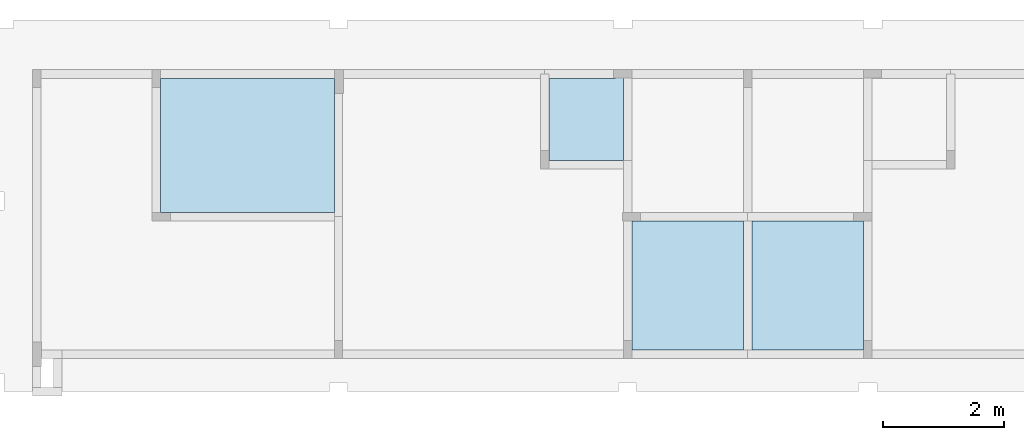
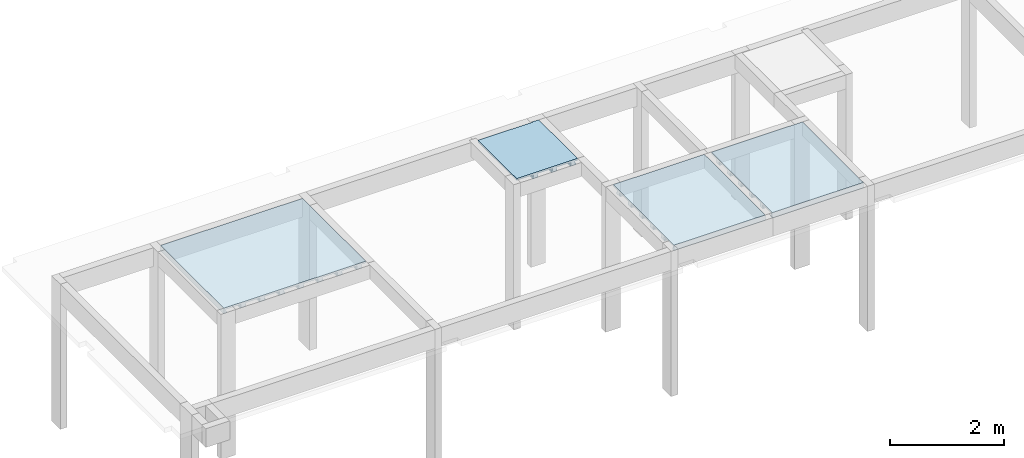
# One storey, part 3 of 4: 4 slabs.
"""IFC4 building model written with IfcOpenShell, lengths in centimetres."""

from ifc_helpers import new_model, si_unit, derived_unit, frame, origin_with_axes, place, context, project, spatial, polyline, outline, extrude, faceted_brep, material, element, save


model = new_model("IFC4")

# Units and contexts
model_context = context("Model", 3, precision=1e-05, world=origin_with_axes(), identifier="Body")
ifc_project = project(units=[si_unit("LENGTHUNIT", "METRE", prefix="CENTI"), si_unit("VOLUMEUNIT", "CUBIC_METRE"), si_unit("AREAUNIT", "SQUARE_METRE"), si_unit("POWERUNIT", "WATT"), si_unit("LUMINOUSFLUXUNIT", "LUMEN"), si_unit("ELECTRICCURRENTUNIT", "AMPERE"), si_unit("PRESSUREUNIT", "PASCAL", prefix="KILO"), si_unit("MASSUNIT", "GRAM", prefix="KILO"), si_unit("PLANEANGLEUNIT", "RADIAN"), derived_unit("VOLUMETRICFLOWRATEUNIT", [(si_unit("LENGTHUNIT", "METRE"), 3), (si_unit("TIMEUNIT", "SECOND"), -1)])], contexts=[model_context])

# Site, building, storey
site_placement = place(None, origin_with_axes())
site = spatial("IfcSite", under=ifc_project, at=site_placement)
building_placement = place(site_placement, frame((0.0, 0.0, 2.0)))
building = spatial("IfcBuilding", under=site, at=building_placement)
placement = place(building_placement, origin_with_axes())
storey_placement = place(placement, frame((0.0, 0.0, 310.0), z_axis=(0.0, 0.0, 1.0), x_axis=(1.0, 0.0, 0.0)))
storey = spatial("IfcBuildingStorey", under=building, at=storey_placement, Name="RESPALDO", CompositionType="ELEMENT", Elevation=312.0)

# Slabs
ifc_material = material(Name="Concreto")
slab_1_placement = place(storey_placement, frame((1082.3045, 182.0505, 0.0), z_axis=(0.0, 0.0, 1.0), x_axis=(1.0, 0.0, 0.0)))
element("IfcSlab", 1, at=slab_1_placement, inside=storey, material=ifc_material, Name="L10", PredefinedType="FLOOR", context=model_context, shape_type="SolidModel", body=[
    extrude(outline(polyline([(92.024, 106.53), (-92.025, 106.53), (-92.025, -106.529), (92.024, -106.529), (92.024, 106.53), (92.024, 106.53)])), frame((0.0005, -0.0005, -4.0), z_axis=(0.0, 0.0, 1.0), x_axis=(1.0, 0.0, 0.0)), (0.0, 0.0, 1.0), 4.0),
    faceted_brep([(-92.0245, -102.0305, -12.0), (92.0245, -102.0305, -12.0), (92.0245, -106.5295, -12.0), (-92.0245, -106.5295, -12.0), (-92.0245, -106.5295, -4.0), (92.0245, -106.5295, -4.0), (92.0245, -102.0305, -4.0), (-92.0245, -102.0305, -4.0)], [[[0, 1, 2, 3]], [[4, 5, 6, 7]], [[4, 3, 5]], [[3, 2, 5]], [[5, 2, 6]], [[2, 1, 6]], [[6, 1, 7]], [[1, 0, 7]], [[7, 0, 4]], [[0, 3, 4]]]),
    faceted_brep([(-92.0245, -100.5305, -12.0), (92.0245, -100.5305, -12.0), (92.0245, -102.0305, -12.0), (-92.0245, -102.0305, -12.0), (-92.0245, -102.0305, -9.0), (92.0245, -102.0305, -9.0), (92.0245, -100.5305, -9.0), (-92.0245, -100.5305, -9.0)], [[[0, 1, 2, 3]], [[4, 5, 6, 7]], [[4, 3, 5]], [[3, 2, 5]], [[5, 2, 6]], [[2, 1, 6]], [[6, 1, 7]], [[1, 0, 7]], [[7, 0, 4]], [[0, 3, 4]]]),
    faceted_brep([(-92.0245, -63.0305, -12.0), (92.0245, -63.0305, -12.0), (92.0245, -72.0305, -12.0), (-92.0245, -72.0305, -12.0), (-92.0245, -72.0305, -4.0), (92.0245, -72.0305, -4.0), (92.0245, -63.0305, -4.0), (-92.0245, -63.0305, -4.0)], [[[0, 1, 2, 3]], [[4, 5, 6, 7]], [[4, 3, 5]], [[3, 2, 5]], [[5, 2, 6]], [[2, 1, 6]], [[6, 1, 7]], [[1, 0, 7]], [[7, 0, 4]], [[0, 3, 4]]]),
    faceted_brep([(-92.0245, -61.5305, -12.0), (92.0245, -61.5305, -12.0), (92.0245, -63.0305, -12.0), (-92.0245, -63.0305, -12.0), (-92.0245, -63.0305, -9.0), (92.0245, -63.0305, -9.0), (92.0245, -61.5305, -9.0), (-92.0245, -61.5305, -9.0)], [[[0, 1, 2, 3]], [[4, 5, 6, 7]], [[4, 3, 5]], [[3, 2, 5]], [[5, 2, 6]], [[2, 1, 6]], [[6, 1, 7]], [[1, 0, 7]], [[7, 0, 4]], [[0, 3, 4]]]),
    faceted_brep([(-92.0245, -72.0305, -12.0), (92.0245, -72.0305, -12.0), (92.0245, -73.5305, -12.0), (-92.0245, -73.5305, -12.0), (-92.0245, -73.5305, -9.0), (92.0245, -73.5305, -9.0), (92.0245, -72.0305, -9.0), (-92.0245, -72.0305, -9.0)], [[[0, 1, 2, 3]], [[4, 5, 6, 7]], [[4, 3, 5]], [[3, 2, 5]], [[5, 2, 6]], [[2, 1, 6]], [[6, 1, 7]], [[1, 0, 7]], [[7, 0, 4]], [[0, 3, 4]]]),
    faceted_brep([(-92.0245, -24.0305, -12.0), (92.0245, -24.0305, -12.0), (92.0245, -33.0305, -12.0), (-92.0245, -33.0305, -12.0), (-92.0245, -33.0305, -4.0), (92.0245, -33.0305, -4.0), (92.0245, -24.0305, -4.0), (-92.0245, -24.0305, -4.0)], [[[0, 1, 2, 3]], [[4, 5, 6, 7]], [[4, 3, 5]], [[3, 2, 5]], [[5, 2, 6]], [[2, 1, 6]], [[6, 1, 7]], [[1, 0, 7]], [[7, 0, 4]], [[0, 3, 4]]]),
    faceted_brep([(-92.0245, -22.5305, -12.0), (92.0245, -22.5305, -12.0), (92.0245, -24.0305, -12.0), (-92.0245, -24.0305, -12.0), (-92.0245, -24.0305, -9.0), (92.0245, -24.0305, -9.0), (92.0245, -22.5305, -9.0), (-92.0245, -22.5305, -9.0)], [[[0, 1, 2, 3]], [[4, 5, 6, 7]], [[4, 3, 5]], [[3, 2, 5]], [[5, 2, 6]], [[2, 1, 6]], [[6, 1, 7]], [[1, 0, 7]], [[7, 0, 4]], [[0, 3, 4]]]),
    faceted_brep([(-92.0245, -33.0305, -12.0), (92.0245, -33.0305, -12.0), (92.0245, -34.5305, -12.0), (-92.0245, -34.5305, -12.0), (-92.0245, -34.5305, -9.0), (92.0245, -34.5305, -9.0), (92.0245, -33.0305, -9.0), (-92.0245, -33.0305, -9.0)], [[[0, 1, 2, 3]], [[4, 5, 6, 7]], [[4, 3, 5]], [[3, 2, 5]], [[5, 2, 6]], [[2, 1, 6]], [[6, 1, 7]], [[1, 0, 7]], [[7, 0, 4]], [[0, 3, 4]]]),
    faceted_brep([(-92.0245, 14.9695, -12.0), (92.0245, 14.9695, -12.0), (92.0245, 5.9695, -12.0), (-92.0245, 5.9695, -12.0), (-92.0245, 5.9695, -4.0), (92.0245, 5.9695, -4.0), (92.0245, 14.9695, -4.0), (-92.0245, 14.9695, -4.0)], [[[0, 1, 2, 3]], [[4, 5, 6, 7]], [[4, 3, 5]], [[3, 2, 5]], [[5, 2, 6]], [[2, 1, 6]], [[6, 1, 7]], [[1, 0, 7]], [[7, 0, 4]], [[0, 3, 4]]]),
    faceted_brep([(-92.0245, 16.4695, -12.0), (92.0245, 16.4695, -12.0), (92.0245, 14.9695, -12.0), (-92.0245, 14.9695, -12.0), (-92.0245, 14.9695, -9.0), (92.0245, 14.9695, -9.0), (92.0245, 16.4695, -9.0), (-92.0245, 16.4695, -9.0)], [[[0, 1, 2, 3]], [[4, 5, 6, 7]], [[4, 3, 5]], [[3, 2, 5]], [[5, 2, 6]], [[2, 1, 6]], [[6, 1, 7]], [[1, 0, 7]], [[7, 0, 4]], [[0, 3, 4]]]),
    faceted_brep([(-92.0245, 5.9695, -12.0), (92.0245, 5.9695, -12.0), (92.0245, 4.4695, -12.0), (-92.0245, 4.4695, -12.0), (-92.0245, 4.4695, -9.0), (92.0245, 4.4695, -9.0), (92.0245, 5.9695, -9.0), (-92.0245, 5.9695, -9.0)], [[[0, 1, 2, 3]], [[4, 5, 6, 7]], [[4, 3, 5]], [[3, 2, 5]], [[5, 2, 6]], [[2, 1, 6]], [[6, 1, 7]], [[1, 0, 7]], [[7, 0, 4]], [[0, 3, 4]]]),
    faceted_brep([(-92.0245, 53.9695, -12.0), (92.0245, 53.9695, -12.0), (92.0245, 44.9695, -12.0), (-92.0245, 44.9695, -12.0), (-92.0245, 44.9695, -4.0), (92.0245, 44.9695, -4.0), (92.0245, 53.9695, -4.0), (-92.0245, 53.9695, -4.0)], [[[0, 1, 2, 3]], [[4, 5, 6, 7]], [[4, 3, 5]], [[3, 2, 5]], [[5, 2, 6]], [[2, 1, 6]], [[6, 1, 7]], [[1, 0, 7]], [[7, 0, 4]], [[0, 3, 4]]]),
    faceted_brep([(-92.0245, 55.4695, -12.0), (92.0245, 55.4695, -12.0), (92.0245, 53.9695, -12.0), (-92.0245, 53.9695, -12.0), (-92.0245, 53.9695, -9.0), (92.0245, 53.9695, -9.0), (92.0245, 55.4695, -9.0), (-92.0245, 55.4695, -9.0)], [[[0, 1, 2, 3]], [[4, 5, 6, 7]], [[4, 3, 5]], [[3, 2, 5]], [[5, 2, 6]], [[2, 1, 6]], [[6, 1, 7]], [[1, 0, 7]], [[7, 0, 4]], [[0, 3, 4]]]),
    faceted_brep([(-92.0245, 44.9695, -12.0), (92.0245, 44.9695, -12.0), (92.0245, 43.4695, -12.0), (-92.0245, 43.4695, -12.0), (-92.0245, 43.4695, -9.0), (92.0245, 43.4695, -9.0), (92.0245, 44.9695, -9.0), (-92.0245, 44.9695, -9.0)], [[[0, 1, 2, 3]], [[4, 5, 6, 7]], [[4, 3, 5]], [[3, 2, 5]], [[5, 2, 6]], [[2, 1, 6]], [[6, 1, 7]], [[1, 0, 7]], [[7, 0, 4]], [[0, 3, 4]]]),
    faceted_brep([(-92.0245, 92.9695, -12.0), (92.0245, 92.9695, -12.0), (92.0245, 83.9695, -12.0), (-92.0245, 83.9695, -12.0), (-92.0245, 83.9695, -4.0), (92.0245, 83.9695, -4.0), (92.0245, 92.9695, -4.0), (-92.0245, 92.9695, -4.0)], [[[0, 1, 2, 3]], [[4, 5, 6, 7]], [[4, 3, 5]], [[3, 2, 5]], [[5, 2, 6]], [[2, 1, 6]], [[6, 1, 7]], [[1, 0, 7]], [[7, 0, 4]], [[0, 3, 4]]]),
    faceted_brep([(-92.0245, 94.4695, -12.0), (92.0245, 94.4695, -12.0), (92.0245, 92.9695, -12.0), (-92.0245, 92.9695, -12.0), (-92.0245, 92.9695, -9.0), (92.0245, 92.9695, -9.0), (92.0245, 94.4695, -9.0), (-92.0245, 94.4695, -9.0)], [[[0, 1, 2, 3]], [[4, 5, 6, 7]], [[4, 3, 5]], [[3, 2, 5]], [[5, 2, 6]], [[2, 1, 6]], [[6, 1, 7]], [[1, 0, 7]], [[7, 0, 4]], [[0, 3, 4]]]),
    faceted_brep([(-92.0245, 83.9695, -12.0), (92.0245, 83.9695, -12.0), (92.0245, 82.4695, -12.0), (-92.0245, 82.4695, -12.0), (-92.0245, 82.4695, -9.0), (92.0245, 82.4695, -9.0), (92.0245, 83.9695, -9.0), (-92.0245, 83.9695, -9.0)], [[[0, 1, 2, 3]], [[4, 5, 6, 7]], [[4, 3, 5]], [[3, 2, 5]], [[5, 2, 6]], [[2, 1, 6]], [[6, 1, 7]], [[1, 0, 7]], [[7, 0, 4]], [[0, 3, 4]]]),
])
slab_2_placement = place(storey_placement, frame((1280.355, 182.05, 0.0), z_axis=(0.0, 0.0, 1.0), x_axis=(1.0, 0.0, 0.0)))
element("IfcSlab", 2, at=slab_2_placement, inside=storey, material=ifc_material, Name="L11", PredefinedType="FLOOR", context=model_context, shape_type="SolidModel", body=[
    extrude(outline(polyline([(92.025, -106.53), (92.024, 106.529), (-92.025, 106.53), (-92.025, -106.53), (92.025, -106.53), (92.025, -106.53)])), frame((0.0, 0.0, -4.0), z_axis=(0.0, 0.0, 1.0), x_axis=(1.0, 0.0, 0.0)), (0.0, 0.0, 1.0), 4.0),
    faceted_brep([(-92.025, -102.53, -12.0), (92.0245, -102.53, -12.0), (92.025, -106.53, -12.0), (-92.025, -106.53, -12.0), (-92.025, -106.53, -4.0), (92.025, -106.53, -4.0), (92.0245, -102.53, -4.0), (-92.025, -102.53, -4.0)], [[[0, 1, 2, 3]], [[4, 5, 6, 7]], [[4, 3, 5]], [[3, 2, 5]], [[5, 2, 6]], [[2, 1, 6]], [[6, 1, 7]], [[1, 0, 7]], [[7, 0, 4]], [[0, 3, 4]]]),
    faceted_brep([(-92.025, -101.03, -12.0), (92.0245, -101.03, -12.0), (92.0245, -102.53, -12.0), (-92.025, -102.53, -12.0), (-92.025, -102.53, -9.0), (92.0245, -102.53, -9.0), (92.0245, -101.03, -9.0), (-92.025, -101.03, -9.0)], [[[0, 1, 2, 3]], [[4, 5, 6, 7]], [[4, 3, 5]], [[3, 2, 5]], [[5, 2, 6]], [[2, 1, 6]], [[6, 1, 7]], [[1, 0, 7]], [[7, 0, 4]], [[0, 3, 4]]]),
    faceted_brep([(-92.025, -64.53, -12.0), (92.0245, -64.53, -12.0), (92.0245, -72.53, -12.0), (-92.025, -72.53, -12.0), (-92.025, -72.53, -4.0), (92.0245, -72.53, -4.0), (92.0245, -64.53, -4.0), (-92.025, -64.53, -4.0)], [[[0, 1, 2, 3]], [[4, 5, 6, 7]], [[4, 3, 5]], [[3, 2, 5]], [[5, 2, 6]], [[2, 1, 6]], [[6, 1, 7]], [[1, 0, 7]], [[7, 0, 4]], [[0, 3, 4]]]),
    faceted_brep([(-92.025, -63.03, -12.0), (92.0245, -63.03, -12.0), (92.0245, -64.53, -12.0), (-92.025, -64.53, -12.0), (-92.025, -64.53, -9.0), (92.0245, -64.53, -9.0), (92.0245, -63.03, -9.0), (-92.025, -63.03, -9.0)], [[[0, 1, 2, 3]], [[4, 5, 6, 7]], [[4, 3, 5]], [[3, 2, 5]], [[5, 2, 6]], [[2, 1, 6]], [[6, 1, 7]], [[1, 0, 7]], [[7, 0, 4]], [[0, 3, 4]]]),
    faceted_brep([(-92.025, -72.53, -12.0), (92.0245, -72.53, -12.0), (92.0245, -74.03, -12.0), (-92.025, -74.03, -12.0), (-92.025, -74.03, -9.0), (92.0245, -74.03, -9.0), (92.0245, -72.53, -9.0), (-92.025, -72.53, -9.0)], [[[0, 1, 2, 3]], [[4, 5, 6, 7]], [[4, 3, 5]], [[3, 2, 5]], [[5, 2, 6]], [[2, 1, 6]], [[6, 1, 7]], [[1, 0, 7]], [[7, 0, 4]], [[0, 3, 4]]]),
    faceted_brep([(-92.025, -26.53, -12.0), (92.0245, -26.53, -12.0), (92.0245, -34.53, -12.0), (-92.025, -34.53, -12.0), (-92.025, -34.53, -4.0), (92.0245, -34.53, -4.0), (92.0245, -26.53, -4.0), (-92.025, -26.53, -4.0)], [[[0, 1, 2, 3]], [[4, 5, 6, 7]], [[4, 3, 5]], [[3, 2, 5]], [[5, 2, 6]], [[2, 1, 6]], [[6, 1, 7]], [[1, 0, 7]], [[7, 0, 4]], [[0, 3, 4]]]),
    faceted_brep([(-92.025, -25.03, -12.0), (92.0245, -25.03, -12.0), (92.0245, -26.53, -12.0), (-92.025, -26.53, -12.0), (-92.025, -26.53, -9.0), (92.0245, -26.53, -9.0), (92.0245, -25.03, -9.0), (-92.025, -25.03, -9.0)], [[[0, 1, 2, 3]], [[4, 5, 6, 7]], [[4, 3, 5]], [[3, 2, 5]], [[5, 2, 6]], [[2, 1, 6]], [[6, 1, 7]], [[1, 0, 7]], [[7, 0, 4]], [[0, 3, 4]]]),
    faceted_brep([(-92.025, -34.53, -12.0), (92.0245, -34.53, -12.0), (92.0245, -36.03, -12.0), (-92.025, -36.03, -12.0), (-92.025, -36.03, -9.0), (92.0245, -36.03, -9.0), (92.0245, -34.53, -9.0), (-92.025, -34.53, -9.0)], [[[0, 1, 2, 3]], [[4, 5, 6, 7]], [[4, 3, 5]], [[3, 2, 5]], [[5, 2, 6]], [[2, 1, 6]], [[6, 1, 7]], [[1, 0, 7]], [[7, 0, 4]], [[0, 3, 4]]]),
    faceted_brep([(-92.025, 11.47, -12.0), (92.0245, 11.47, -12.0), (92.0245, 3.47, -12.0), (-92.025, 3.47, -12.0), (-92.025, 3.47, -4.0), (92.0245, 3.47, -4.0), (92.0245, 11.47, -4.0), (-92.025, 11.47, -4.0)], [[[0, 1, 2, 3]], [[4, 5, 6, 7]], [[4, 3, 5]], [[3, 2, 5]], [[5, 2, 6]], [[2, 1, 6]], [[6, 1, 7]], [[1, 0, 7]], [[7, 0, 4]], [[0, 3, 4]]]),
    faceted_brep([(-92.025, 12.97, -12.0), (92.0245, 12.97, -12.0), (92.0245, 11.47, -12.0), (-92.025, 11.47, -12.0), (-92.025, 11.47, -9.0), (92.0245, 11.47, -9.0), (92.0245, 12.97, -9.0), (-92.025, 12.97, -9.0)], [[[0, 1, 2, 3]], [[4, 5, 6, 7]], [[4, 3, 5]], [[3, 2, 5]], [[5, 2, 6]], [[2, 1, 6]], [[6, 1, 7]], [[1, 0, 7]], [[7, 0, 4]], [[0, 3, 4]]]),
    faceted_brep([(-92.025, 3.47, -12.0), (92.0245, 3.47, -12.0), (92.0245, 1.97, -12.0), (-92.025, 1.97, -12.0), (-92.025, 1.97, -9.0), (92.0245, 1.97, -9.0), (92.0245, 3.47, -9.0), (-92.025, 3.47, -9.0)], [[[0, 1, 2, 3]], [[4, 5, 6, 7]], [[4, 3, 5]], [[3, 2, 5]], [[5, 2, 6]], [[2, 1, 6]], [[6, 1, 7]], [[1, 0, 7]], [[7, 0, 4]], [[0, 3, 4]]]),
    faceted_brep([(-92.025, 49.47, -12.0), (92.0245, 49.47, -12.0), (92.0245, 41.47, -12.0), (-92.025, 41.47, -12.0), (-92.025, 41.47, -4.0), (92.0245, 41.47, -4.0), (92.0245, 49.47, -4.0), (-92.025, 49.47, -4.0)], [[[0, 1, 2, 3]], [[4, 5, 6, 7]], [[4, 3, 5]], [[3, 2, 5]], [[5, 2, 6]], [[2, 1, 6]], [[6, 1, 7]], [[1, 0, 7]], [[7, 0, 4]], [[0, 3, 4]]]),
    faceted_brep([(-92.025, 50.97, -12.0), (92.0245, 50.97, -12.0), (92.0245, 49.47, -12.0), (-92.025, 49.47, -12.0), (-92.025, 49.47, -9.0), (92.0245, 49.47, -9.0), (92.0245, 50.97, -9.0), (-92.025, 50.97, -9.0)], [[[0, 1, 2, 3]], [[4, 5, 6, 7]], [[4, 3, 5]], [[3, 2, 5]], [[5, 2, 6]], [[2, 1, 6]], [[6, 1, 7]], [[1, 0, 7]], [[7, 0, 4]], [[0, 3, 4]]]),
    faceted_brep([(-92.025, 41.47, -12.0), (92.0245, 41.47, -12.0), (92.0245, 39.97, -12.0), (-92.025, 39.97, -12.0), (-92.025, 39.97, -9.0), (92.0245, 39.97, -9.0), (92.0245, 41.47, -9.0), (-92.025, 41.47, -9.0)], [[[0, 1, 2, 3]], [[4, 5, 6, 7]], [[4, 3, 5]], [[3, 2, 5]], [[5, 2, 6]], [[2, 1, 6]], [[6, 1, 7]], [[1, 0, 7]], [[7, 0, 4]], [[0, 3, 4]]]),
    faceted_brep([(-92.025, 87.47, -12.0), (92.0245, 87.47, -12.0), (92.0245, 79.47, -12.0), (-92.025, 79.47, -12.0), (-92.025, 79.47, -4.0), (92.0245, 79.47, -4.0), (92.0245, 87.47, -4.0), (-92.025, 87.47, -4.0)], [[[0, 1, 2, 3]], [[4, 5, 6, 7]], [[4, 3, 5]], [[3, 2, 5]], [[5, 2, 6]], [[2, 1, 6]], [[6, 1, 7]], [[1, 0, 7]], [[7, 0, 4]], [[0, 3, 4]]]),
    faceted_brep([(-92.025, 88.97, -12.0), (92.0245, 88.97, -12.0), (92.0245, 87.47, -12.0), (-92.025, 87.47, -12.0), (-92.025, 87.47, -9.0), (92.0245, 87.47, -9.0), (92.0245, 88.97, -9.0), (-92.025, 88.97, -9.0)], [[[0, 1, 2, 3]], [[4, 5, 6, 7]], [[4, 3, 5]], [[3, 2, 5]], [[5, 2, 6]], [[2, 1, 6]], [[6, 1, 7]], [[1, 0, 7]], [[7, 0, 4]], [[0, 3, 4]]]),
    faceted_brep([(-92.025, 79.47, -12.0), (92.0245, 79.47, -12.0), (92.0245, 77.97, -12.0), (-92.025, 77.97, -12.0), (-92.025, 77.97, -9.0), (92.0245, 77.97, -9.0), (92.0245, 79.47, -9.0), (-92.025, 79.47, -9.0)], [[[0, 1, 2, 3]], [[4, 5, 6, 7]], [[4, 3, 5]], [[3, 2, 5]], [[5, 2, 6]], [[2, 1, 6]], [[6, 1, 7]], [[1, 0, 7]], [[7, 0, 4]], [[0, 3, 4]]]),
])
slab_3_placement = place(storey_placement, frame((355.85, 413.1, 0.0), z_axis=(0.0, 0.0, 1.0), x_axis=(1.0, 0.0, 0.0)))
element("IfcSlab", 3, at=slab_3_placement, inside=storey, material=ifc_material, Name="L3", PredefinedType="FLOOR", context=model_context, shape_type="SolidModel", body=[
    extrude(outline(polyline([(143.3, -110.53), (143.3, 110.53), (-143.3, 110.529), (-143.3, -110.53), (143.3, -110.53), (143.3, -110.53)])), frame((0.0, 0.0, -4.0), z_axis=(0.0, 0.0, 1.0), x_axis=(1.0, 0.0, 0.0)), (0.0, 0.0, 1.0), 4.0),
    faceted_brep([(-108.8, -110.53, -12.0), (-108.8, 110.5295, -12.0), (-99.8, 110.5295, -12.0), (-99.8, -110.53, -12.0), (-99.8, -110.53, -4.0), (-99.8, 110.5295, -4.0), (-108.8, 110.5295, -4.0), (-108.8, -110.53, -4.0)], [[[0, 1, 2, 3]], [[4, 5, 6, 7]], [[4, 3, 5]], [[3, 2, 5]], [[5, 2, 6]], [[2, 1, 6]], [[6, 1, 7]], [[1, 0, 7]], [[7, 0, 4]], [[0, 3, 4]]]),
    faceted_brep([(-110.3, -110.53, -12.0), (-110.3, 110.5295, -12.0), (-108.8, 110.5295, -12.0), (-108.8, -110.53, -12.0), (-108.8, -110.53, -9.0), (-108.8, 110.5295, -9.0), (-110.3, 110.5295, -9.0), (-110.3, -110.53, -9.0)], [[[0, 1, 2, 3]], [[4, 5, 6, 7]], [[4, 3, 5]], [[3, 2, 5]], [[5, 2, 6]], [[2, 1, 6]], [[6, 1, 7]], [[1, 0, 7]], [[7, 0, 4]], [[0, 3, 4]]]),
    faceted_brep([(-99.8, -110.53, -12.0), (-99.8, 110.5295, -12.0), (-98.3, 110.5295, -12.0), (-98.3, -110.53, -12.0), (-98.3, -110.53, -9.0), (-98.3, 110.5295, -9.0), (-99.8, 110.5295, -9.0), (-99.8, -110.53, -9.0)], [[[0, 1, 2, 3]], [[4, 5, 6, 7]], [[4, 3, 5]], [[3, 2, 5]], [[5, 2, 6]], [[2, 1, 6]], [[6, 1, 7]], [[1, 0, 7]], [[7, 0, 4]], [[0, 3, 4]]]),
    faceted_brep([(-143.3, -110.53, -12.0), (-143.3, 110.5295, -12.0), (-138.8, 110.5295, -12.0), (-138.8, -110.53, -12.0), (-138.8, -110.53, -4.0), (-138.8, 110.5295, -4.0), (-143.3, 110.5295, -4.0), (-143.3, -110.53, -4.0)], [[[0, 1, 2, 3]], [[4, 5, 6, 7]], [[4, 3, 5]], [[3, 2, 5]], [[5, 2, 6]], [[2, 1, 6]], [[6, 1, 7]], [[1, 0, 7]], [[7, 0, 4]], [[0, 3, 4]]]),
    faceted_brep([(-138.8, -110.53, -12.0), (-138.8, 110.5295, -12.0), (-137.3, 110.5295, -12.0), (-137.3, -110.53, -12.0), (-137.3, -110.53, -9.0), (-137.3, 110.5295, -9.0), (-138.8, 110.5295, -9.0), (-138.8, -110.53, -9.0)], [[[0, 1, 2, 3]], [[4, 5, 6, 7]], [[4, 3, 5]], [[3, 2, 5]], [[5, 2, 6]], [[2, 1, 6]], [[6, 1, 7]], [[1, 0, 7]], [[7, 0, 4]], [[0, 3, 4]]]),
    faceted_brep([(-69.8, -110.53, -12.0), (-69.8, 110.5295, -12.0), (-60.8, 110.5295, -12.0), (-60.8, -110.53, -12.0), (-60.8, -110.53, -4.0), (-60.8, 110.5295, -4.0), (-69.8, 110.5295, -4.0), (-69.8, -110.53, -4.0)], [[[0, 1, 2, 3]], [[4, 5, 6, 7]], [[4, 3, 5]], [[3, 2, 5]], [[5, 2, 6]], [[2, 1, 6]], [[6, 1, 7]], [[1, 0, 7]], [[7, 0, 4]], [[0, 3, 4]]]),
    faceted_brep([(-71.3, -110.53, -12.0), (-71.3, 110.5295, -12.0), (-69.8, 110.5295, -12.0), (-69.8, -110.53, -12.0), (-69.8, -110.53, -9.0), (-69.8, 110.5295, -9.0), (-71.3, 110.5295, -9.0), (-71.3, -110.53, -9.0)], [[[0, 1, 2, 3]], [[4, 5, 6, 7]], [[4, 3, 5]], [[3, 2, 5]], [[5, 2, 6]], [[2, 1, 6]], [[6, 1, 7]], [[1, 0, 7]], [[7, 0, 4]], [[0, 3, 4]]]),
    faceted_brep([(-60.8, -110.53, -12.0), (-60.8, 110.5295, -12.0), (-59.3, 110.5295, -12.0), (-59.3, -110.53, -12.0), (-59.3, -110.53, -9.0), (-59.3, 110.5295, -9.0), (-60.8, 110.5295, -9.0), (-60.8, -110.53, -9.0)], [[[0, 1, 2, 3]], [[4, 5, 6, 7]], [[4, 3, 5]], [[3, 2, 5]], [[5, 2, 6]], [[2, 1, 6]], [[6, 1, 7]], [[1, 0, 7]], [[7, 0, 4]], [[0, 3, 4]]]),
    faceted_brep([(-30.8, -110.53, -12.0), (-30.8, 110.5295, -12.0), (-21.8, 110.5295, -12.0), (-21.8, -110.53, -12.0), (-21.8, -110.53, -4.0), (-21.8, 110.5295, -4.0), (-30.8, 110.5295, -4.0), (-30.8, -110.53, -4.0)], [[[0, 1, 2, 3]], [[4, 5, 6, 7]], [[4, 3, 5]], [[3, 2, 5]], [[5, 2, 6]], [[2, 1, 6]], [[6, 1, 7]], [[1, 0, 7]], [[7, 0, 4]], [[0, 3, 4]]]),
    faceted_brep([(-32.3, -110.53, -12.0), (-32.3, 110.5295, -12.0), (-30.8, 110.5295, -12.0), (-30.8, -110.53, -12.0), (-30.8, -110.53, -9.0), (-30.8, 110.5295, -9.0), (-32.3, 110.5295, -9.0), (-32.3, -110.53, -9.0)], [[[0, 1, 2, 3]], [[4, 5, 6, 7]], [[4, 3, 5]], [[3, 2, 5]], [[5, 2, 6]], [[2, 1, 6]], [[6, 1, 7]], [[1, 0, 7]], [[7, 0, 4]], [[0, 3, 4]]]),
    faceted_brep([(-21.8, -110.53, -12.0), (-21.8, 110.5295, -12.0), (-20.3, 110.5295, -12.0), (-20.3, -110.53, -12.0), (-20.3, -110.53, -9.0), (-20.3, 110.5295, -9.0), (-21.8, 110.5295, -9.0), (-21.8, -110.53, -9.0)], [[[0, 1, 2, 3]], [[4, 5, 6, 7]], [[4, 3, 5]], [[3, 2, 5]], [[5, 2, 6]], [[2, 1, 6]], [[6, 1, 7]], [[1, 0, 7]], [[7, 0, 4]], [[0, 3, 4]]]),
    faceted_brep([(8.2, -110.53, -12.0), (8.2, 110.5295, -12.0), (17.2, 110.5295, -12.0), (17.2, -110.53, -12.0), (17.2, -110.53, -4.0), (17.2, 110.5295, -4.0), (8.2, 110.5295, -4.0), (8.2, -110.53, -4.0)], [[[0, 1, 2, 3]], [[4, 5, 6, 7]], [[4, 3, 5]], [[3, 2, 5]], [[5, 2, 6]], [[2, 1, 6]], [[6, 1, 7]], [[1, 0, 7]], [[7, 0, 4]], [[0, 3, 4]]]),
    faceted_brep([(6.7, -110.53, -12.0), (6.7, 110.5295, -12.0), (8.2, 110.5295, -12.0), (8.2, -110.53, -12.0), (8.2, -110.53, -9.0), (8.2, 110.5295, -9.0), (6.7, 110.5295, -9.0), (6.7, -110.53, -9.0)], [[[0, 1, 2, 3]], [[4, 5, 6, 7]], [[4, 3, 5]], [[3, 2, 5]], [[5, 2, 6]], [[2, 1, 6]], [[6, 1, 7]], [[1, 0, 7]], [[7, 0, 4]], [[0, 3, 4]]]),
    faceted_brep([(17.2, -110.53, -12.0), (17.2, 110.5295, -12.0), (18.7, 110.5295, -12.0), (18.7, -110.53, -12.0), (18.7, -110.53, -9.0), (18.7, 110.5295, -9.0), (17.2, 110.5295, -9.0), (17.2, -110.53, -9.0)], [[[0, 1, 2, 3]], [[4, 5, 6, 7]], [[4, 3, 5]], [[3, 2, 5]], [[5, 2, 6]], [[2, 1, 6]], [[6, 1, 7]], [[1, 0, 7]], [[7, 0, 4]], [[0, 3, 4]]]),
    faceted_brep([(47.2, -110.53, -12.0), (47.2, 110.5295, -12.0), (56.2, 110.5295, -12.0), (56.2, -110.53, -12.0), (56.2, -110.53, -4.0), (56.2, 110.5295, -4.0), (47.2, 110.5295, -4.0), (47.2, -110.53, -4.0)], [[[0, 1, 2, 3]], [[4, 5, 6, 7]], [[4, 3, 5]], [[3, 2, 5]], [[5, 2, 6]], [[2, 1, 6]], [[6, 1, 7]], [[1, 0, 7]], [[7, 0, 4]], [[0, 3, 4]]]),
    faceted_brep([(45.7, -110.53, -12.0), (45.7, 110.5295, -12.0), (47.2, 110.5295, -12.0), (47.2, -110.53, -12.0), (47.2, -110.53, -9.0), (47.2, 110.5295, -9.0), (45.7, 110.5295, -9.0), (45.7, -110.53, -9.0)], [[[0, 1, 2, 3]], [[4, 5, 6, 7]], [[4, 3, 5]], [[3, 2, 5]], [[5, 2, 6]], [[2, 1, 6]], [[6, 1, 7]], [[1, 0, 7]], [[7, 0, 4]], [[0, 3, 4]]]),
    faceted_brep([(56.2, -110.53, -12.0), (56.2, 110.5295, -12.0), (57.7, 110.5295, -12.0), (57.7, -110.53, -12.0), (57.7, -110.53, -9.0), (57.7, 110.5295, -9.0), (56.2, 110.5295, -9.0), (56.2, -110.53, -9.0)], [[[0, 1, 2, 3]], [[4, 5, 6, 7]], [[4, 3, 5]], [[3, 2, 5]], [[5, 2, 6]], [[2, 1, 6]], [[6, 1, 7]], [[1, 0, 7]], [[7, 0, 4]], [[0, 3, 4]]]),
    faceted_brep([(86.2, -110.53, -12.0), (86.2, 110.5295, -12.0), (95.2, 110.5295, -12.0), (95.2, -110.53, -12.0), (95.2, -110.53, -4.0), (95.2, 110.5295, -4.0), (86.2, 110.5295, -4.0), (86.2, -110.53, -4.0)], [[[0, 1, 2, 3]], [[4, 5, 6, 7]], [[4, 3, 5]], [[3, 2, 5]], [[5, 2, 6]], [[2, 1, 6]], [[6, 1, 7]], [[1, 0, 7]], [[7, 0, 4]], [[0, 3, 4]]]),
    faceted_brep([(84.7, -110.53, -12.0), (84.7, 110.5295, -12.0), (86.2, 110.5295, -12.0), (86.2, -110.53, -12.0), (86.2, -110.53, -9.0), (86.2, 110.5295, -9.0), (84.7, 110.5295, -9.0), (84.7, -110.53, -9.0)], [[[0, 1, 2, 3]], [[4, 5, 6, 7]], [[4, 3, 5]], [[3, 2, 5]], [[5, 2, 6]], [[2, 1, 6]], [[6, 1, 7]], [[1, 0, 7]], [[7, 0, 4]], [[0, 3, 4]]]),
    faceted_brep([(95.2, -110.53, -12.0), (95.2, 110.5295, -12.0), (96.7, 110.5295, -12.0), (96.7, -110.53, -12.0), (96.7, -110.53, -9.0), (96.7, 110.5295, -9.0), (95.2, 110.5295, -9.0), (95.2, -110.53, -9.0)], [[[0, 1, 2, 3]], [[4, 5, 6, 7]], [[4, 3, 5]], [[3, 2, 5]], [[5, 2, 6]], [[2, 1, 6]], [[6, 1, 7]], [[1, 0, 7]], [[7, 0, 4]], [[0, 3, 4]]]),
    faceted_brep([(125.2, -110.53, -12.0), (125.2, 110.5295, -12.0), (134.2, 110.5295, -12.0), (134.2, -110.53, -12.0), (134.2, -110.53, -4.0), (134.2, 110.5295, -4.0), (125.2, 110.5295, -4.0), (125.2, -110.53, -4.0)], [[[0, 1, 2, 3]], [[4, 5, 6, 7]], [[4, 3, 5]], [[3, 2, 5]], [[5, 2, 6]], [[2, 1, 6]], [[6, 1, 7]], [[1, 0, 7]], [[7, 0, 4]], [[0, 3, 4]]]),
    faceted_brep([(123.7, -110.53, -12.0), (123.7, 110.5295, -12.0), (125.2, 110.5295, -12.0), (125.2, -110.53, -12.0), (125.2, -110.53, -9.0), (125.2, 110.5295, -9.0), (123.7, 110.5295, -9.0), (123.7, -110.53, -9.0)], [[[0, 1, 2, 3]], [[4, 5, 6, 7]], [[4, 3, 5]], [[3, 2, 5]], [[5, 2, 6]], [[2, 1, 6]], [[6, 1, 7]], [[1, 0, 7]], [[7, 0, 4]], [[0, 3, 4]]]),
    faceted_brep([(134.2, -110.53, -12.0), (134.2, 110.5295, -12.0), (135.7, 110.5295, -12.0), (135.7, -110.53, -12.0), (135.7, -110.53, -9.0), (135.7, 110.5295, -9.0), (134.2, 110.5295, -9.0), (134.2, -110.53, -9.0)], [[[0, 1, 2, 3]], [[4, 5, 6, 7]], [[4, 3, 5]], [[3, 2, 5]], [[5, 2, 6]], [[2, 1, 6]], [[6, 1, 7]], [[1, 0, 7]], [[7, 0, 4]], [[0, 3, 4]]]),
])
slab_4_placement = place(storey_placement, frame((914.76, 456.6155, 0.0), z_axis=(0.0, 0.0, 1.0), x_axis=(1.0, 0.0, 0.0)))
element("IfcSlab", 4, at=slab_4_placement, inside=storey, material=ifc_material, Name="L5", PredefinedType="FLOOR", context=model_context, shape_type="SolidModel", body=[
    extrude(outline(polyline([(61.52, 68.025), (48.317, 68.025), (48.519, 67.015), (-61.519, 67.015), (-61.52, -68.024), (61.519, -68.024), (61.52, 68.025), (61.52, 68.025)])), frame((0.0, -0.0005, -4.0), z_axis=(0.0, 0.0, 1.0), x_axis=(1.0, 0.0, 0.0)), (0.0, 0.0, 1.0), 4.0),
    faceted_brep([(-27.52, -68.0245, -12.0), (-27.52, 67.0145, -12.0), (-19.52, 67.0145, -12.0), (-19.52, -68.0245, -12.0), (-19.52, -68.0245, -4.0), (-19.52, 67.0145, -4.0), (-27.52, 67.0145, -4.0), (-27.52, -68.0245, -4.0)], [[[0, 1, 2, 3]], [[4, 5, 6, 7]], [[4, 3, 5]], [[3, 2, 5]], [[5, 2, 6]], [[2, 1, 6]], [[6, 1, 7]], [[1, 0, 7]], [[7, 0, 4]], [[0, 3, 4]]]),
    faceted_brep([(-29.02, -68.0245, -12.0), (-29.02, 67.0145, -12.0), (-27.52, 67.0145, -12.0), (-27.52, -68.0245, -12.0), (-27.52, -68.0245, -9.0), (-27.52, 67.0145, -9.0), (-29.02, 67.0145, -9.0), (-29.02, -68.0245, -9.0)], [[[0, 1, 2, 3]], [[4, 5, 6, 7]], [[4, 3, 5]], [[3, 2, 5]], [[5, 2, 6]], [[2, 1, 6]], [[6, 1, 7]], [[1, 0, 7]], [[7, 0, 4]], [[0, 3, 4]]]),
    faceted_brep([(-19.52, -68.0245, -12.0), (-19.52, 67.0145, -12.0), (-18.02, 67.0145, -12.0), (-18.02, -68.0245, -12.0), (-18.02, -68.0245, -9.0), (-18.02, 67.0145, -9.0), (-19.52, 67.0145, -9.0), (-19.52, -68.0245, -9.0)], [[[0, 1, 2, 3]], [[4, 5, 6, 7]], [[4, 3, 5]], [[3, 2, 5]], [[5, 2, 6]], [[2, 1, 6]], [[6, 1, 7]], [[1, 0, 7]], [[7, 0, 4]], [[0, 3, 4]]]),
    faceted_brep([(10.48, -68.0245, -12.0), (10.48, 67.0145, -12.0), (18.48, 67.0145, -12.0), (18.48, -68.0245, -12.0), (18.48, -68.0245, -4.0), (18.48, 67.0145, -4.0), (10.48, 67.0145, -4.0), (10.48, -68.0245, -4.0)], [[[0, 1, 2, 3]], [[4, 5, 6, 7]], [[4, 3, 5]], [[3, 2, 5]], [[5, 2, 6]], [[2, 1, 6]], [[6, 1, 7]], [[1, 0, 7]], [[7, 0, 4]], [[0, 3, 4]]]),
    faceted_brep([(8.98, -68.0245, -12.0), (8.98, 67.0145, -12.0), (10.48, 67.0145, -12.0), (10.48, -68.0245, -12.0), (10.48, -68.0245, -9.0), (10.48, 67.0145, -9.0), (8.98, 67.0145, -9.0), (8.98, -68.0245, -9.0)], [[[0, 1, 2, 3]], [[4, 5, 6, 7]], [[4, 3, 5]], [[3, 2, 5]], [[5, 2, 6]], [[2, 1, 6]], [[6, 1, 7]], [[1, 0, 7]], [[7, 0, 4]], [[0, 3, 4]]]),
    faceted_brep([(18.48, -68.0245, -12.0), (18.48, 67.0145, -12.0), (19.98, 67.0145, -12.0), (19.98, -68.0245, -12.0), (19.98, -68.0245, -9.0), (19.98, 67.0145, -9.0), (18.48, 67.0145, -9.0), (18.48, -68.0245, -9.0)], [[[0, 1, 2, 3]], [[4, 5, 6, 7]], [[4, 3, 5]], [[3, 2, 5]], [[5, 2, 6]], [[2, 1, 6]], [[6, 1, 7]], [[1, 0, 7]], [[7, 0, 4]], [[0, 3, 4]]]),
    faceted_brep([(48.48, -68.0245, -12.0), (48.48, 68.0245, -12.0), (56.48, 68.0245, -12.0), (56.48, -68.0245, -12.0), (56.48, -68.0245, -4.0), (56.48, 68.0245, -4.0), (48.48, 68.0245, -4.0), (48.48, -68.0245, -4.0)], [[[0, 1, 2, 3]], [[4, 5, 6, 7]], [[4, 3, 5]], [[3, 2, 5]], [[5, 2, 6]], [[2, 1, 6]], [[6, 1, 7]], [[1, 0, 7]], [[7, 0, 4]], [[0, 3, 4]]]),
    faceted_brep([(46.98, -68.0245, -12.0), (46.98, 67.0145, -12.0), (48.48, 68.0245, -12.0), (48.48, -68.0245, -12.0), (48.48, -68.0245, -9.0), (48.48, 68.0245, -9.0), (46.98, 67.0145, -9.0), (46.98, -68.0245, -9.0)], [[[0, 1, 2, 3]], [[4, 5, 6, 7]], [[4, 3, 5]], [[3, 2, 5]], [[5, 2, 6]], [[2, 1, 6]], [[6, 1, 7]], [[1, 0, 7]], [[7, 0, 4]], [[0, 3, 4]]]),
    faceted_brep([(56.48, -68.0245, -12.0), (56.48, 68.0245, -12.0), (57.98, 68.0245, -12.0), (57.98, -68.0245, -12.0), (57.98, -68.0245, -9.0), (57.98, 68.0245, -9.0), (56.48, 68.0245, -9.0), (56.48, -68.0245, -9.0)], [[[0, 1, 2, 3]], [[4, 5, 6, 7]], [[4, 3, 5]], [[3, 2, 5]], [[5, 2, 6]], [[2, 1, 6]], [[6, 1, 7]], [[1, 0, 7]], [[7, 0, 4]], [[0, 3, 4]]]),
])

save(model, "model.ifc")
